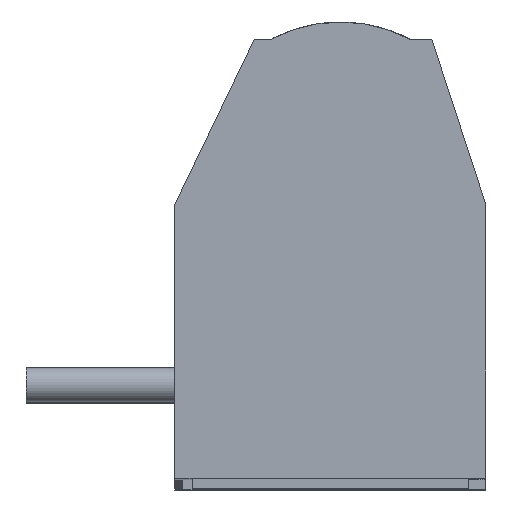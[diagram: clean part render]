
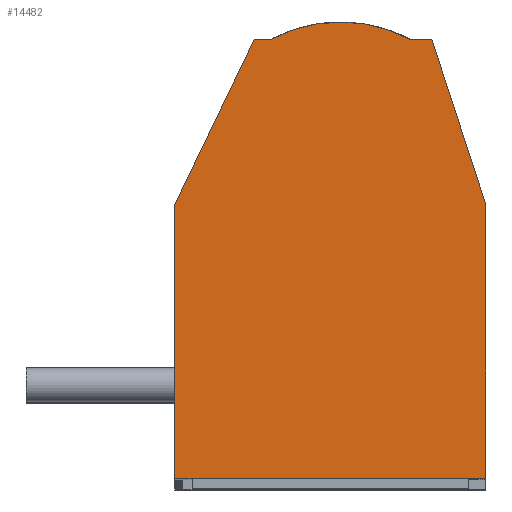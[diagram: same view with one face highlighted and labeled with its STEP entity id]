
A CAD part, top view. The second image highlights one B-rep face of the part: STEP entity #14482.
In plain terms, the highlighted planar face has unit normal (0, 0, 1).
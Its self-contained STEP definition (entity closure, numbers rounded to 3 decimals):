
#1317 = DIRECTION ( 'NONE',  ( -0.31, 0.951, 0. ) ) ;
#1318 = VECTOR ( 'NONE', #1317, 1000. ) ;
#1321 = CARTESIAN_POINT ( 'NONE',  ( 2.636, 12.7, 0. ) ) ;
#1322 = LINE ( 'NONE', #1321, #1318 ) ;
#1566 = DIRECTION ( 'NONE',  ( 0., -1., 0. ) ) ;
#1567 = VECTOR ( 'NONE', #1566, 1000. ) ;
#1568 = CARTESIAN_POINT ( 'NONE',  ( -4.8, 0., 0. ) ) ;
#1569 = LINE ( 'NONE', #1568, #1567 ) ;
#1570 = CARTESIAN_POINT ( 'NONE',  ( 4.2, 7.9, 0. ) ) ;
#1571 = CARTESIAN_POINT ( 'NONE',  ( -4.8, 0., 0. ) ) ;
#1578 = CARTESIAN_POINT ( 'NONE',  ( 4.2, 0., 0. ) ) ;
#1579 = DIRECTION ( 'NONE',  ( 0., 1., 0. ) ) ;
#1580 = VECTOR ( 'NONE', #1579, 1000. ) ;
#1581 = CARTESIAN_POINT ( 'NONE',  ( 4.2, 7.9, 0. ) ) ;
#1582 = LINE ( 'NONE', #1581, #1580 ) ;
#1651 = DIRECTION ( 'NONE',  ( -1., 0., 0. ) ) ;
#1652 = VECTOR ( 'NONE', #1651, 1000. ) ;
#1653 = CARTESIAN_POINT ( 'NONE',  ( 3.7, 0., 0. ) ) ;
#1654 = LINE ( 'NONE', #1653, #1652 ) ;
#1742 = CARTESIAN_POINT ( 'NONE',  ( -4.3, 0., 0. ) ) ;
#1793 = DIRECTION ( 'NONE',  ( -1., 0., 0. ) ) ;
#1794 = VECTOR ( 'NONE', #1793, 1000. ) ;
#1795 = CARTESIAN_POINT ( 'NONE',  ( -2.5, 12.7, 0. ) ) ;
#1796 = LINE ( 'NONE', #1795, #1794 ) ;
#1889 = CARTESIAN_POINT ( 'NONE',  ( 2., 12.7, 0. ) ) ;
#1900 = CARTESIAN_POINT ( 'NONE',  ( 2.636, 12.7, 0. ) ) ;
#6173 = DIRECTION ( 'NONE',  ( -0.432, -0.902, 0. ) ) ;
#6174 = VECTOR ( 'NONE', #6173, 1000. ) ;
#6175 = CARTESIAN_POINT ( 'NONE',  ( -4.8, 7.9, 0. ) ) ;
#6176 = LINE ( 'NONE', #6175, #6174 ) ;
#6177 = CARTESIAN_POINT ( 'NONE',  ( -4.8, 7.9, 0. ) ) ;
#6218 = CARTESIAN_POINT ( 'NONE',  ( -2., 12.7, 0. ) ) ;
#6219 = DIRECTION ( 'NONE',  ( 1., 0., 0. ) ) ;
#6220 = VECTOR ( 'NONE', #6219, 1000. ) ;
#6221 = CARTESIAN_POINT ( 'NONE',  ( 3.7, 12.7, 0. ) ) ;
#6222 = LINE ( 'NONE', #6221, #6220 ) ;
#6223 = CARTESIAN_POINT ( 'NONE',  ( -2.5, 12.7, 0. ) ) ;
#7941 = DIRECTION ( 'NONE',  ( -1., 0., 0. ) ) ;
#7942 = VECTOR ( 'NONE', #7941, 1000. ) ;
#7943 = CARTESIAN_POINT ( 'NONE',  ( 3.7, 0., 0. ) ) ;
#7944 = LINE ( 'NONE', #7943, #7942 ) ;
#7945 = CARTESIAN_POINT ( 'NONE',  ( 3.7, 0., 0. ) ) ;
#8283 = CIRCLE ( 'NONE', #8344, 4.313 ) ;
#8341 = DIRECTION ( 'NONE',  ( -1., 0., 0. ) ) ;
#8342 = DIRECTION ( 'NONE',  ( 0., 0., -1. ) ) ;
#8343 = CARTESIAN_POINT ( 'NONE',  ( 0., 8.879, 0. ) ) ;
#8344 = AXIS2_PLACEMENT_3D ( 'NONE', #8343, #8342, #8341 ) ;
#8842 = DIRECTION ( 'NONE',  ( 1., 0., 0. ) ) ;
#8843 = VECTOR ( 'NONE', #8842, 1000. ) ;
#8844 = CARTESIAN_POINT ( 'NONE',  ( 4.2, 0., 0. ) ) ;
#8845 = LINE ( 'NONE', #8844, #8843 ) ;
#8935 = DIRECTION ( 'NONE',  ( -1., 0., 0. ) ) ;
#8936 = DIRECTION ( 'NONE',  ( 0., 0., -1. ) ) ;
#8937 = CARTESIAN_POINT ( 'NONE',  ( 3.7, -0.3, 0. ) ) ;
#8938 = AXIS2_PLACEMENT_3D ( 'NONE', #8937, #8936, #8935 ) ;
#8939 = PLANE ( 'NONE',  #8938 ) ;
#8940 = FACE_OUTER_BOUND ( 'NONE', #14483, .T. ) ;
#10170 = EDGE_CURVE ( 'NONE', #10171, #10185, #1582, .T. ) ;
#10171 = VERTEX_POINT ( 'NONE', #1578 ) ;
#10178 = VERTEX_POINT ( 'NONE', #1571 ) ;
#10185 = VERTEX_POINT ( 'NONE', #1570 ) ;
#10186 = EDGE_CURVE ( 'NONE', #12830, #10178, #1569, .T. ) ;
#10262 = EDGE_CURVE ( 'NONE', #10288, #10178, #1654, .T. ) ;
#10288 = VERTEX_POINT ( 'NONE', #1742 ) ;
#10343 = EDGE_CURVE ( 'NONE', #10410, #10421, #1796, .T. ) ;
#10392 = EDGE_CURVE ( 'NONE', #10185, #10410, #1322, .T. ) ;
#10410 = VERTEX_POINT ( 'NONE', #1900 ) ;
#10421 = VERTEX_POINT ( 'NONE', #1889 ) ;
#12830 = VERTEX_POINT ( 'NONE', #6177 ) ;
#12832 = EDGE_CURVE ( 'NONE', #12842, #12830, #6176, .T. ) ;
#12842 = VERTEX_POINT ( 'NONE', #6223 ) ;
#12844 = EDGE_CURVE ( 'NONE', #12842, #12845, #6222, .T. ) ;
#12845 = VERTEX_POINT ( 'NONE', #6218 ) ;
#13891 = VERTEX_POINT ( 'NONE', #7945 ) ;
#13893 = EDGE_CURVE ( 'NONE', #13891, #10288, #7944, .T. ) ;
#14099 = EDGE_CURVE ( 'NONE', #12845, #10421, #8283, .T. ) ;
#14433 = EDGE_CURVE ( 'NONE', #13891, #10171, #8845, .T. ) ;
#14468 = ORIENTED_EDGE ( 'NONE', *, *, #12844, .F. ) ;
#14469 = ORIENTED_EDGE ( 'NONE', *, *, #12832, .T. ) ;
#14470 = ORIENTED_EDGE ( 'NONE', *, *, #10186, .T. ) ;
#14471 = ORIENTED_EDGE ( 'NONE', *, *, #10262, .F. ) ;
#14482 = ADVANCED_FACE ( 'NONE', ( #8940 ), #8939, .F. ) ;
#14483 = EDGE_LOOP ( 'NONE', ( #14484, #14485, #14486, #14487, #14488, #14489, #14468, #14469, #14470, #14471 ) ) ;
#14484 = ORIENTED_EDGE ( 'NONE', *, *, #13893, .F. ) ;
#14485 = ORIENTED_EDGE ( 'NONE', *, *, #14433, .T. ) ;
#14486 = ORIENTED_EDGE ( 'NONE', *, *, #10170, .T. ) ;
#14487 = ORIENTED_EDGE ( 'NONE', *, *, #10392, .T. ) ;
#14488 = ORIENTED_EDGE ( 'NONE', *, *, #10343, .T. ) ;
#14489 = ORIENTED_EDGE ( 'NONE', *, *, #14099, .F. ) ;
